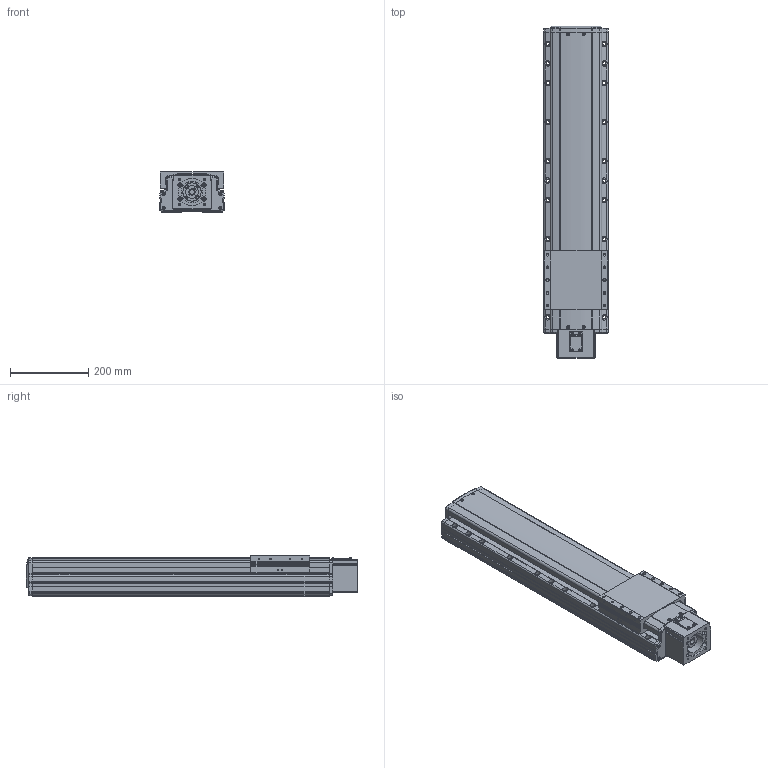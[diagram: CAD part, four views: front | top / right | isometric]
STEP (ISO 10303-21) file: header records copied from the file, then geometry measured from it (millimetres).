
FILE_DESCRIPTION(('STEP AP214'),'1');
FILE_NAME('Z:/Web/3D/PSA165/STP/PSA165-500 (3D)/PSA165ㅁㅁ-500S.stp','2014-06-23T11:17:50',(' '),(' '),'Spatial InterOp 3D',' ',' ');
FILE_SCHEMA(('automotive_design'));
Length unit declared in the file: millimetre
Products named in the file (67): 스크루 : Round - M4.0 x 12.0; RRCV-PA160; BASE; 스크루 : Round - M4.0 x 10.0; RN15; Screw 20; SLIDE; FRCV; 스크루 : Socket - M6.0 x 25.0; MTHZ-SAN150-80A; SSFX-SAN65; CPLCV-SAN65; 스크루 : Round - M3.0 x 6.0; SDWA47C(2); SDWA47C(3-1); SDWA47C(3); SDWA47C(1); SDWA47C(4); SDWA47C(5)
Bounding box: 165 x 849.8 x 104 mm (x, y, z)
Volume: 11323813.8 mm3; surface area: 839469.6 mm2
Topology: 67 solids, 67 shells, 2968 faces, 7907 edges, 5085 vertices
Faces by surface type: plane 1380, cylinder 1126, cone 353, sphere 50, bspline 35, torus 24
Entity records: 121899 total; most frequent: CARTESIAN_POINT 21405, DIRECTION 16459, ORIENTED_EDGE 15518, EDGE_CURVE 7759, AXIS2_PLACEMENT_3D 5949, VERTEX_POINT 5085, LINE 4561, VECTOR 4561
